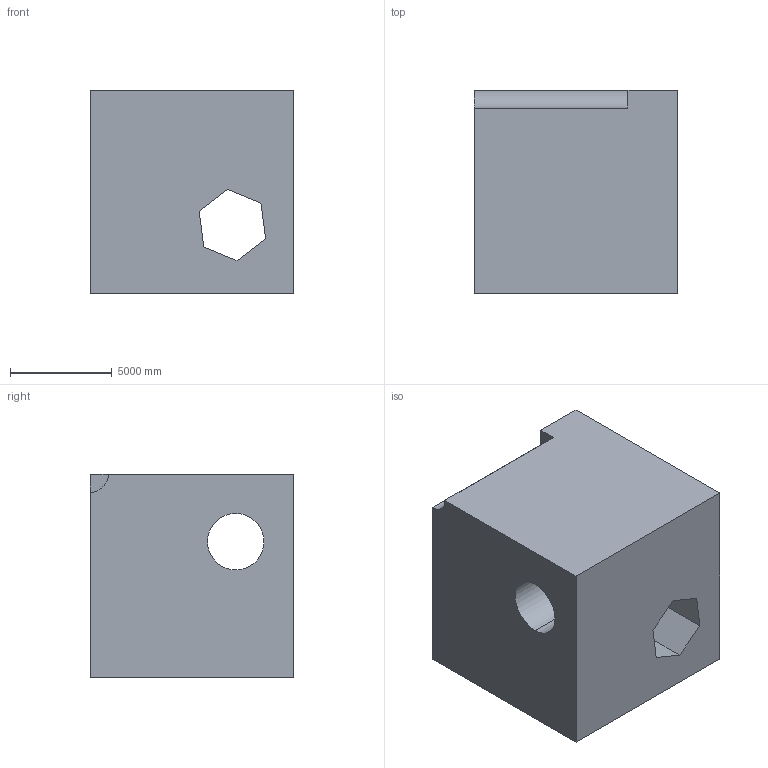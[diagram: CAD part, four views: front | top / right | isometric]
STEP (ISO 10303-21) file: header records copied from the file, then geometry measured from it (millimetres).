
FILE_DESCRIPTION (( 'STEP AP203' ), '1' );
FILE_NAME ('25.STEP', '2022-08-30T14:04:11', ( 'user' ), ( '' ), 'SwSTEP 2.0', 'SolidWorks 2021', '' );
FILE_SCHEMA (( 'CONFIG_CONTROL_DESIGN' ));
Length unit declared in the file: centimetre
Products named in the file (1): 25
Bounding box: 10000 x 10000 x 10000 mm (x, y, z)
Volume: 853386874847.4 mm3; surface area: 762203605.9 mm2
Topology: 1 solids, 1 shells, 16 faces, 42 edges, 28 vertices
Faces by surface type: plane 13, cylinder 3
Entity records: 577 total; most frequent: CARTESIAN_POINT 87, ORIENTED_EDGE 84, DIRECTION 82, EDGE_CURVE 42, LINE 36, VECTOR 36, VERTEX_POINT 28, AXIS2_PLACEMENT_3D 23
